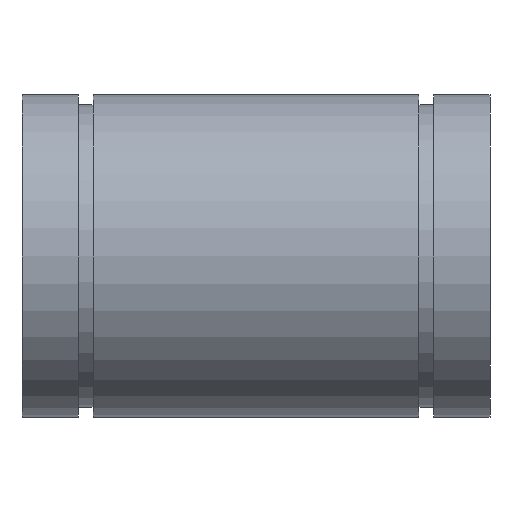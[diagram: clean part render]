
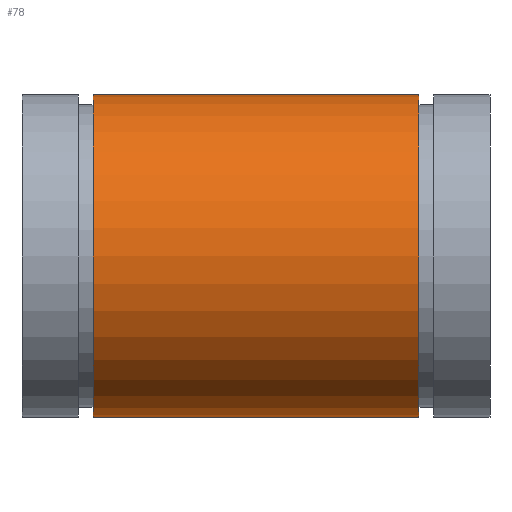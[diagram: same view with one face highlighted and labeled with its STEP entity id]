
A CAD part, front view. The second image highlights one B-rep face of the part: STEP entity #78.
In plain terms, the highlighted cylindrical face has radius 20 mm (diameter 40 mm), a full revolution.
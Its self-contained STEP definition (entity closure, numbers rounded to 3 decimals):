
#78 = ADVANCED_FACE( '', ( #97, #98 ), #99, .T. );
#97 = FACE_OUTER_BOUND( '', #133, .T. );
#98 = FACE_OUTER_BOUND( '', #134, .T. );
#99 = CYLINDRICAL_SURFACE( '', #135, 20. );
#133 = EDGE_LOOP( '', ( #175 ) );
#134 = EDGE_LOOP( '', ( #176 ) );
#135 = AXIS2_PLACEMENT_3D( '', #177, #178, #179 );
#175 = ORIENTED_EDGE( '', *, *, #224, .T. );
#176 = ORIENTED_EDGE( '', *, *, #223, .F. );
#177 = CARTESIAN_POINT( '', ( 58., 0., 0. ) );
#178 = DIRECTION( '', ( -1., 0., 0. ) );
#179 = DIRECTION( '', ( 0., 0., -1. ) );
#223 = EDGE_CURVE( '', #238, #238, #239, .T. );
#224 = EDGE_CURVE( '', #240, #240, #241, .T. );
#238 = VERTEX_POINT( '', #262 );
#239 = CIRCLE( '', #263, 20. );
#240 = VERTEX_POINT( '', #264 );
#241 = CIRCLE( '', #265, 20. );
#262 = CARTESIAN_POINT( '', ( 49.2, 0., -20. ) );
#263 = AXIS2_PLACEMENT_3D( '', #289, #290, #291 );
#264 = CARTESIAN_POINT( '', ( 8.8, 0., -20. ) );
#265 = AXIS2_PLACEMENT_3D( '', #292, #293, #294 );
#289 = CARTESIAN_POINT( '', ( 49.2, 0., 0. ) );
#290 = DIRECTION( '', ( 1., 0., 0. ) );
#291 = DIRECTION( '', ( 0., 0., -1. ) );
#292 = CARTESIAN_POINT( '', ( 8.8, 0., 0. ) );
#293 = DIRECTION( '', ( 1., 0., 0. ) );
#294 = DIRECTION( '', ( 0., 0., -1. ) );
